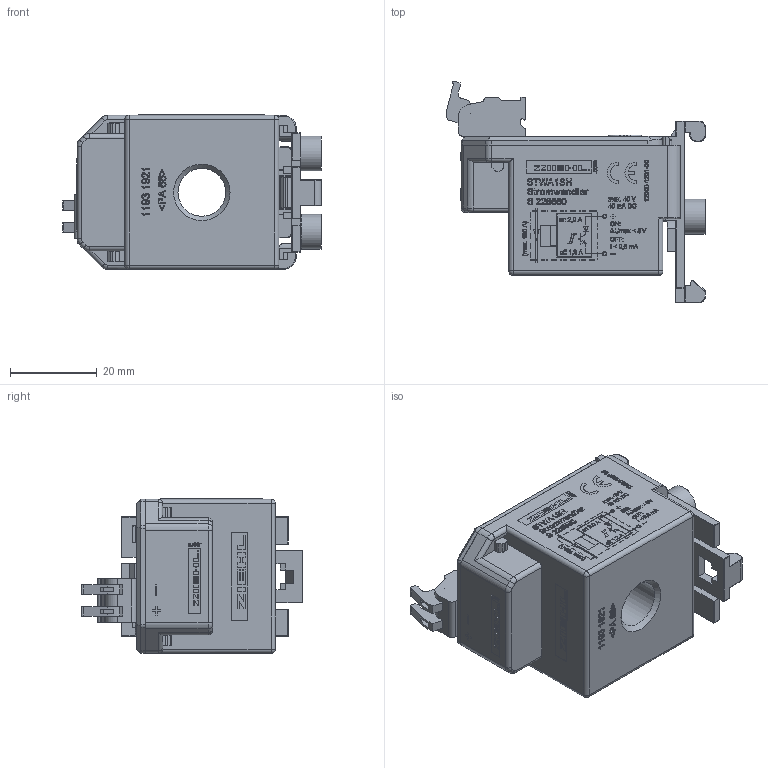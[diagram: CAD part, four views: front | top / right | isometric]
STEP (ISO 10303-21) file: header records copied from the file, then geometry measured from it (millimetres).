
FILE_DESCRIPTION (( 'STEP AP214' ), '1' );
FILE_NAME ('12000-1901-00_STWA1SH_3D.STEP', '2014-09-17T11:49:00', ( '' ), ( '' ), 'SwSTEP 2.0', 'SolidWorks 2014', '' );
FILE_SCHEMA (( 'AUTOMOTIVE_DESIGN' ));
Length unit declared in the file: millimetre
Products named in the file (8): H_3D_Unterteil mit Vergussmasse; 12000-1901-00_STWA1SH_3D; H-Wandler_ +-_ 3D; 12000-1201-00 SH_3D; ASP045 2-polig; 31177102 Stiftleiste 2-polig; 1193 1980_3D_Halter; 1193 1970_3D_Deckel
Assembly tree (7 placements, depth 2):
  12000-1901-00_STWA1SH_3D
    H_3D_Unterteil mit Vergussmasse
    1193 1970_3D_Deckel
    1193 1980_3D_Halter
    31177102 Stiftleiste 2-polig
    ASP045 2-polig
    12000-1201-00 SH_3D
    H-Wandler_ +-_ 3D
Bounding box: 59.64 x 50.98 x 35.67 mm (x, y, z)
Volume: 18200.8 mm3; surface area: 26194.4 mm2
Topology: 167 solids, 174 shells, 2649 faces, 6584 edges, 4287 vertices
Faces by surface type: plane 1880, bspline 423, cylinder 269, torus 48, sphere 24, cone 5
Full cylindrical faces by diameter (mm): 0.05 x1, 1.6 x4, 4.4 x2, 6.5 x1, 7.5 x1, 8 x2, 11 x2, 12 x1, 15 x1
Entity records: 92940 total; most frequent: CARTESIAN_POINT 30088, ORIENTED_EDGE 13002, DIRECTION 10564, EDGE_CURVE 6517, VECTOR 5068, LINE 5068, VERTEX_POINT 4276, EDGE_LOOP 2847
